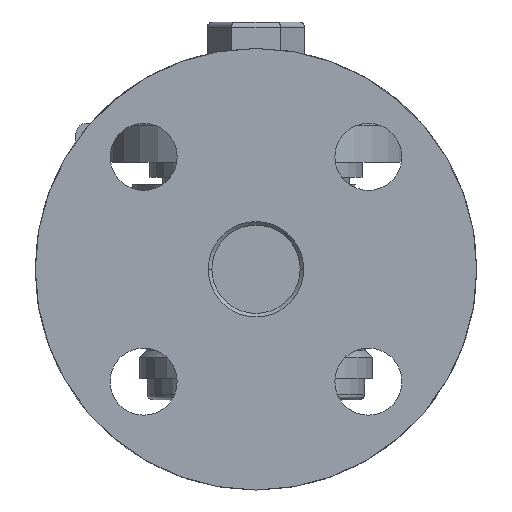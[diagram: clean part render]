
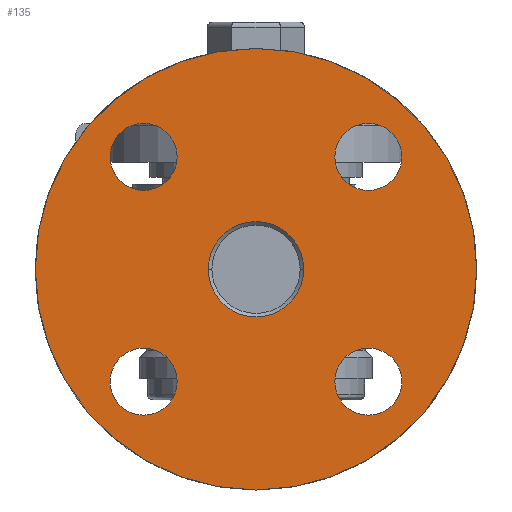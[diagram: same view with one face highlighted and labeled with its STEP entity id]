
A CAD part, left-side view. The second image highlights one B-rep face of the part: STEP entity #135.
In plain terms, the highlighted planar face has unit normal (-1, 0, 0).
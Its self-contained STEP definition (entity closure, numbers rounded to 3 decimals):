
#135=ADVANCED_FACE('',(#836,#837,#838,#839,#840,#841),#835,.F.);
#835=PLANE('',#2016);
#836=FACE_OUTER_BOUND('',#2017,.T.);
#837=FACE_BOUND('',#2018,.T.);
#838=FACE_BOUND('',#2019,.T.);
#839=FACE_BOUND('',#2020,.T.);
#840=FACE_BOUND('',#2021,.T.);
#841=FACE_BOUND('',#2022,.T.);
#2013=CARTESIAN_POINT('',(-80.,-72.5,-118.253));
#2014=DIRECTION('',(1.,0.,0.));
#2015=DIRECTION('',(0.,1.,0.));
#2016=AXIS2_PLACEMENT_3D('',#2013,#2014,#2015);
#2017=EDGE_LOOP('',(#3146,#3147));
#2018=EDGE_LOOP('',(#3148,#3149));
#2019=EDGE_LOOP('',(#3150,#3151));
#2020=EDGE_LOOP('',(#3152,#3153));
#2021=EDGE_LOOP('',(#3154,#3155));
#2022=EDGE_LOOP('',(#3156,#3157));
#3146=ORIENTED_EDGE('',*,*,#3769,.T.);
#3147=ORIENTED_EDGE('',*,*,#3770,.T.);
#3148=ORIENTED_EDGE('',*,*,#3771,.F.);
#3149=ORIENTED_EDGE('',*,*,#3772,.F.);
#3150=ORIENTED_EDGE('',*,*,#3773,.F.);
#3151=ORIENTED_EDGE('',*,*,#3774,.F.);
#3152=ORIENTED_EDGE('',*,*,#3775,.F.);
#3153=ORIENTED_EDGE('',*,*,#3776,.F.);
#3154=ORIENTED_EDGE('',*,*,#3777,.F.);
#3155=ORIENTED_EDGE('',*,*,#3778,.F.);
#3156=ORIENTED_EDGE('',*,*,#3779,.F.);
#3157=ORIENTED_EDGE('',*,*,#3780,.F.);
#3769=EDGE_CURVE('',#5224,#5225,#5226,.T.);
#3770=EDGE_CURVE('',#5225,#5224,#5232,.T.);
#3771=EDGE_CURVE('',#5238,#5239,#5240,.T.);
#3772=EDGE_CURVE('',#5239,#5238,#5246,.T.);
#3773=EDGE_CURVE('',#5252,#5253,#5254,.T.);
#3774=EDGE_CURVE('',#5253,#5252,#5260,.T.);
#3775=EDGE_CURVE('',#5266,#5267,#5268,.T.);
#3776=EDGE_CURVE('',#5267,#5266,#5274,.T.);
#3777=EDGE_CURVE('',#5280,#5281,#5282,.T.);
#3778=EDGE_CURVE('',#5281,#5280,#5288,.T.);
#3779=EDGE_CURVE('',#5294,#5295,#5296,.T.);
#3780=EDGE_CURVE('',#5295,#5294,#5302,.T.);
#5224=VERTEX_POINT('',#7153);
#5225=VERTEX_POINT('',#7154);
#5226=CIRCLE('',#7158,62.5);
#5232=CIRCLE('',#7162,62.5);
#5238=VERTEX_POINT('',#7163);
#5239=VERTEX_POINT('',#7164);
#5240=CIRCLE('',#7168,9.5);
#5246=CIRCLE('',#7172,9.5);
#5252=VERTEX_POINT('',#7173);
#5253=VERTEX_POINT('',#7174);
#5254=CIRCLE('',#7178,9.5);
#5260=CIRCLE('',#7182,9.5);
#5266=VERTEX_POINT('',#7183);
#5267=VERTEX_POINT('',#7184);
#5268=CIRCLE('',#7188,9.5);
#5274=CIRCLE('',#7192,9.5);
#5280=VERTEX_POINT('',#7193);
#5281=VERTEX_POINT('',#7194);
#5282=CIRCLE('',#7198,9.5);
#5288=CIRCLE('',#7202,9.5);
#5294=VERTEX_POINT('',#7203);
#5295=VERTEX_POINT('',#7204);
#5296=CIRCLE('',#7208,13.5);
#5302=CIRCLE('',#7212,13.5);
#7153=CARTESIAN_POINT('',(-80.,-62.5,0.));
#7154=CARTESIAN_POINT('',(-80.,62.5,0.));
#7155=CARTESIAN_POINT('',(-80.,0.,0.));
#7156=DIRECTION('',(-1.,0.,0.));
#7157=DIRECTION('',(0.,-1.,0.));
#7158=AXIS2_PLACEMENT_3D('',#7155,#7156,#7157);
#7159=CARTESIAN_POINT('',(-80.,0.,0.));
#7160=DIRECTION('',(-1.,0.,0.));
#7161=DIRECTION('',(0.,-1.,0.));
#7162=AXIS2_PLACEMENT_3D('',#7159,#7160,#7161);
#7163=CARTESIAN_POINT('',(-80.,-22.32,-31.82));
#7164=CARTESIAN_POINT('',(-80.,-41.32,-31.82));
#7165=CARTESIAN_POINT('',(-80.,-31.82,-31.82));
#7166=DIRECTION('',(-1.,0.,0.));
#7167=DIRECTION('',(0.,-1.,0.));
#7168=AXIS2_PLACEMENT_3D('',#7165,#7166,#7167);
#7169=CARTESIAN_POINT('',(-80.,-31.82,-31.82));
#7170=DIRECTION('',(-1.,0.,0.));
#7171=DIRECTION('',(0.,-1.,0.));
#7172=AXIS2_PLACEMENT_3D('',#7169,#7170,#7171);
#7173=CARTESIAN_POINT('',(-80.,-22.32,31.82));
#7174=CARTESIAN_POINT('',(-80.,-41.32,31.82));
#7175=CARTESIAN_POINT('',(-80.,-31.82,31.82));
#7176=DIRECTION('',(-1.,0.,0.));
#7177=DIRECTION('',(0.,-1.,0.));
#7178=AXIS2_PLACEMENT_3D('',#7175,#7176,#7177);
#7179=CARTESIAN_POINT('',(-80.,-31.82,31.82));
#7180=DIRECTION('',(-1.,0.,0.));
#7181=DIRECTION('',(0.,-1.,0.));
#7182=AXIS2_PLACEMENT_3D('',#7179,#7180,#7181);
#7183=CARTESIAN_POINT('',(-80.,41.32,31.82));
#7184=CARTESIAN_POINT('',(-80.,22.32,31.82));
#7185=CARTESIAN_POINT('',(-80.,31.82,31.82));
#7186=DIRECTION('',(-1.,0.,0.));
#7187=DIRECTION('',(0.,-1.,0.));
#7188=AXIS2_PLACEMENT_3D('',#7185,#7186,#7187);
#7189=CARTESIAN_POINT('',(-80.,31.82,31.82));
#7190=DIRECTION('',(-1.,0.,0.));
#7191=DIRECTION('',(0.,-1.,0.));
#7192=AXIS2_PLACEMENT_3D('',#7189,#7190,#7191);
#7193=CARTESIAN_POINT('',(-80.,41.32,-31.82));
#7194=CARTESIAN_POINT('',(-80.,22.32,-31.82));
#7195=CARTESIAN_POINT('',(-80.,31.82,-31.82));
#7196=DIRECTION('',(-1.,0.,0.));
#7197=DIRECTION('',(0.,-1.,0.));
#7198=AXIS2_PLACEMENT_3D('',#7195,#7196,#7197);
#7199=CARTESIAN_POINT('',(-80.,31.82,-31.82));
#7200=DIRECTION('',(-1.,0.,0.));
#7201=DIRECTION('',(0.,-1.,0.));
#7202=AXIS2_PLACEMENT_3D('',#7199,#7200,#7201);
#7203=CARTESIAN_POINT('',(-80.,0.,-13.5));
#7204=CARTESIAN_POINT('',(-80.,0.,13.5));
#7205=CARTESIAN_POINT('',(-80.,0.,0.));
#7206=DIRECTION('',(-1.,0.,0.));
#7207=DIRECTION('',(0.,0.,1.));
#7208=AXIS2_PLACEMENT_3D('',#7205,#7206,#7207);
#7209=CARTESIAN_POINT('',(-80.,0.,0.));
#7210=DIRECTION('',(-1.,0.,0.));
#7211=DIRECTION('',(0.,0.,1.));
#7212=AXIS2_PLACEMENT_3D('',#7209,#7210,#7211);
